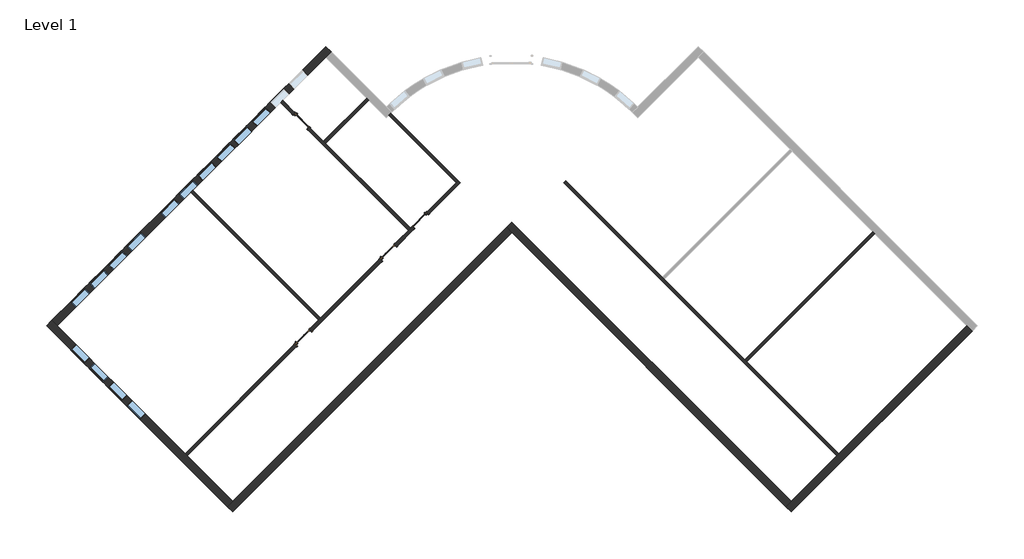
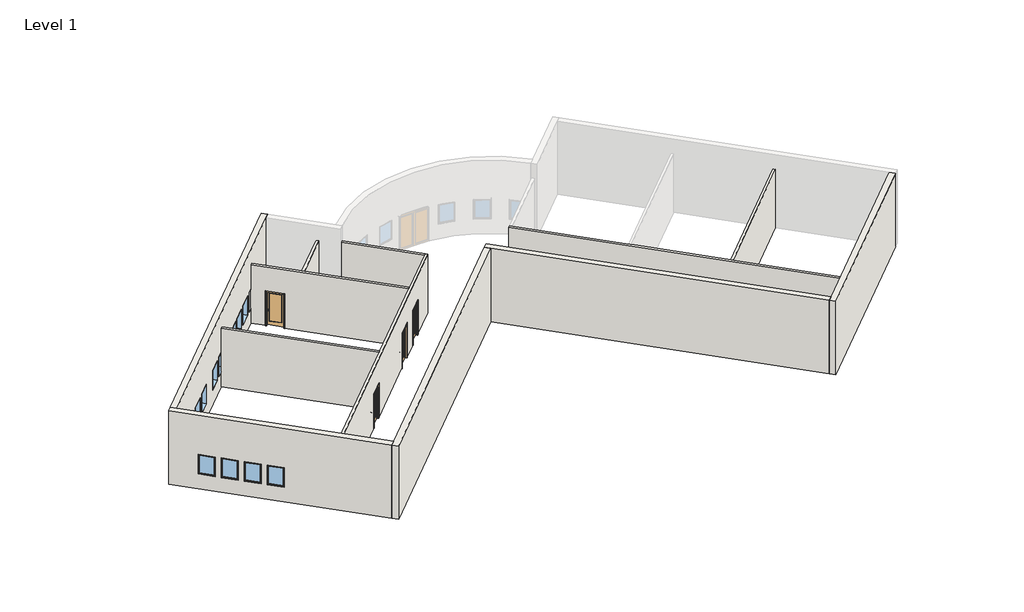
# One storey, part 1 of 2: 14 windows, 12 walls, 4 doors.
"""IFC4 building model written with IfcOpenShell, lengths in millimetres."""

from ifc_helpers import new_model, si_unit, point, frame_2d, origin, origin_with_axes, place, context, project, spatial, polyline, circle_curve, trimmed, segment, composite_curve, outline, extrude, faceted_brep, transform, mapped, element, save
from components import m_door_interior_single_1_panel_wood_900_x_2100mm_5dfd14ed, m_door_interior_single_1_panel_wood_900_x_2100mm_26619124, m_door_interior_single_full_glass_wood_900_x_2100mm_91e60ec7, m_fixed_0915_x_1220mm_bde29121, m_fixed_0915_x_1220mm_2a2509e7

model = new_model("IFC4")

# Units and contexts
model_context = context("Model", 3, world=origin())
ifc_project = project(units=[si_unit("LENGTHUNIT", "METRE", prefix="MILLI")], contexts=[model_context])

# Site, building, storey
site = spatial("IfcSite", under=ifc_project)
building = spatial("IfcBuilding", under=site)
storey = spatial("IfcBuildingStorey", under=building, Name="Level 1", Elevation=0.0)

# Doors
placement = place(None, origin())
m_door_interior_single_1_panel_wood_900_x_2100mm_shape = m_door_interior_single_1_panel_wood_900_x_2100mm_5dfd14ed(model_context)
element("IfcDoor", 1, ObjectType="M_Door-Interior-Single-1_Panel-Wood : 900 x 2100mm", at=placement, inside=storey, context=model_context, shape_type="MappedRepresentation", body=[
    mapped(m_door_interior_single_1_panel_wood_900_x_2100mm_shape, transform((-5845.495051, 2560.390774, 0.0), x_axis=(-0.7071067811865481, -0.7071067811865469, 0.0), y_axis=(0.7071067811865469, -0.7071067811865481, 0.0), z_axis=(0.0, 0.0, 1.0))),
])
m_door_interior_single_1_panel_wood_900_x_2100mm_2_shape = m_door_interior_single_1_panel_wood_900_x_2100mm_26619124(model_context)
element("IfcDoor", 2, ObjectType="M_Door-Interior-Single-1_Panel-Wood : 900 x 2100mm", at=placement, inside=storey, context=model_context, shape_type="MappedRepresentation", body=[
    mapped(m_door_interior_single_1_panel_wood_900_x_2100mm_2_shape, transform((-11360.5390355, 7166.1307933, 0.0), x_axis=(0.7071067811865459, -0.7071067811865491, 0.0), y_axis=(0.7071067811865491, 0.7071067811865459, 0.0), z_axis=(0.0, 0.0, 1.0))),
])
m_door_interior_single_full_glass_wood_900_x_2100mm_shape = m_door_interior_single_full_glass_wood_900_x_2100mm_91e60ec7(model_context)
element("IfcDoor", 3, ObjectType="M_Door-Interior-Single-Full Glass-Wood : 900 x 2100mm", at=placement, inside=storey, context=model_context, shape_type="MappedRepresentation", body=[
    mapped(m_door_interior_single_full_glass_wood_900_x_2100mm_shape, transform((-11272.2921092, -2866.4062842, 0.0), x_axis=(0.7071067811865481, 0.7071067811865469, 0.0), y_axis=(-0.7071067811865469, 0.7071067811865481, 0.0), z_axis=(0.0, 0.0, 1.0))),
])
element("IfcDoor", 4, ObjectType="M_Door-Interior-Single-Full Glass-Wood : 900 x 2100mm", at=placement, inside=storey, context=model_context, shape_type="MappedRepresentation", body=[
    mapped(m_door_interior_single_full_glass_wood_900_x_2100mm_shape, transform((-7333.813404, 1072.072421, 0.0), x_axis=(0.7071067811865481, 0.7071067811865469, 0.0), y_axis=(-0.7071067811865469, 0.7071067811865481, 0.0), z_axis=(0.0, 0.0, 1.0))),
])

# Walls
element("IfcWall", 5, ObjectType="Exterior - Brick on Mtl. Stud", at=placement, inside=storey, context=model_context, shape_type="Brep", body=[
    faceted_brep([(19456.3942478, -2315.870622, 0.0), (13534.5517321, -8237.7131378, 0.0), (13436.6174429, -8335.647427, 0.0), (11330.3231184, -10441.9417514, 0.0), (11082.835745, -10689.4291248, 0.0), (11082.835745, -10689.4291248, 4572.0), (11330.3231184, -10441.9417514, 4572.0), (19456.3942478, -2315.870622, 4572.0), (19703.8816212, -2563.3579955, 0.0), (19703.8816212, -2563.3579955, 4572.0), (11330.3231184, -10936.9164983, 4572.0), (11330.3231184, -10936.9164983, 0.0)], [[[0, 1, 2, 3, 4, 5, 6, 7]], [[8, 9, 10, 11]], [[4, 3, 2, 1, 0, 8, 11]], [[7, 6, 5, 10, 9]], [[0, 7, 9, 8]], [[5, 4, 11, 10]]]),
])
element("IfcWall", 6, ObjectType="Exterior - Brick on Mtl. Stud", at=placement, inside=storey, context=model_context, shape_type="Brep", body=[
    faceted_brep([(11330.3231184, -10441.9417514, 0.0), (-1601.2456959, 2489.6270629, 0.0), (-1601.2456959, 2489.6270629, 4572.0), (11330.3231184, -10441.9417514, 4572.0), (11082.835745, -10689.4291248, 0.0), (11082.835745, -10689.4291248, 4572.0), (-1601.2456959, 1994.6523161, 4572.0), (-1848.7330693, 2242.1396895, 4572.0), (-1848.7330693, 2242.1396895, 0.0), (-1601.2456959, 1994.6523161, 0.0)], [[[0, 1, 2, 3]], [[4, 5, 6, 7, 8, 9]], [[1, 0, 4, 9, 8]], [[3, 2, 7, 6, 5]], [[0, 3, 5, 4]], [[2, 1, 8, 7]]]),
])
element("IfcWall", 7, ObjectType="Exterior - Brick on Mtl. Stud", at=placement, inside=storey, context=model_context, shape_type="Brep", body=[
    faceted_brep([(-1848.7330693, 2242.1396895, 0.0), (-14532.8145102, -10441.9417514, 0.0), (-14780.3018837, -10689.4291248, 0.0), (-14780.3018837, -10689.4291248, 4572.0), (-14532.8145102, -10441.9417514, 4572.0), (-1848.7330693, 2242.1396895, 4572.0), (-1601.2456959, 1994.6523161, 0.0), (-1601.2456959, 1994.6523161, 4572.0), (-14532.8145102, -10936.9164983, 4572.0), (-14532.8145102, -10936.9164983, 0.0)], [[[0, 1, 2, 3, 4, 5]], [[6, 7, 8, 9]], [[2, 1, 0, 6, 9]], [[5, 4, 3, 8, 7]], [[0, 5, 7, 6]], [[3, 2, 9, 8]]]),
])
element("IfcWall", 8, ObjectType="Exterior - Brick on Mtl. Stud", at=placement, inside=storey, context=model_context, shape_type="Brep", body=[
    faceted_brep([(-14532.8145102, -10441.9417514, 0.0), (-16639.1088347, -8335.647427, 0.0), (-16737.0431239, -8237.7131378, 0.0), (-22658.8856396, -2315.870622, 0.0), (-22906.3730131, -2068.3832486, 0.0), (-22906.3730131, -2068.3832486, 4572.0), (-22658.8856396, -2315.870622, 4572.0), (-14532.8145102, -10441.9417514, 4572.0), (-19208.9116542, -5765.8446074, 915.0), (-18561.9089495, -6412.8473122, 915.0), (-18561.9089495, -6412.8473122, 2135.0), (-19208.9116542, -5765.8446074, 2135.0), (-20071.5819273, -4903.1743344, 915.0), (-19424.5792225, -5550.1770392, 915.0), (-19424.5792225, -5550.1770392, 2135.0), (-20071.5819273, -4903.1743344, 2135.0), (-20934.2522003, -4040.5040614, 915.0), (-20287.2494955, -4687.5067661, 915.0), (-20287.2494955, -4687.5067661, 2135.0), (-20934.2522003, -4040.5040614, 2135.0), (-21796.9224734, -3177.8337883, 915.0), (-21149.9197686, -3824.8364931, 915.0), (-21149.9197686, -3824.8364931, 2135.0), (-21796.9224734, -3177.8337883, 2135.0), (-14780.3018837, -10689.4291248, 0.0), (-14780.3018837, -10689.4291248, 4572.0), (-23153.8603865, -2315.870622, 4572.0), (-23153.8603865, -2315.870622, 0.0), (-19456.3990277, -6013.3319809, 915.0), (-19456.3990277, -6013.3319809, 2135.0), (-18809.3963229, -6660.3346856, 2135.0), (-18809.3963229, -6660.3346856, 915.0), (-20319.0693007, -5150.6617078, 915.0), (-20319.0693007, -5150.6617078, 2135.0), (-19672.0665959, -5797.6644126, 2135.0), (-19672.0665959, -5797.6644126, 915.0), (-21181.7395737, -4287.9914348, 915.0), (-21181.7395737, -4287.9914348, 2135.0), (-20534.736869, -4934.9941396, 2135.0), (-20534.736869, -4934.9941396, 915.0), (-22044.4098468, -3425.3211617, 915.0), (-22044.4098468, -3425.3211617, 2135.0), (-21397.407142, -4072.3238665, 2135.0), (-21397.407142, -4072.3238665, 915.0)], [[[0, 1, 2, 3, 4, 5, 6, 7], [8, 9, 10, 11], [12, 13, 14, 15], [16, 17, 18, 19], [20, 21, 22, 23]], [[24, 25, 26, 27], [28, 29, 30, 31], [32, 33, 34, 35], [36, 37, 38, 39], [40, 41, 42, 43]], [[4, 3, 2, 1, 0, 24, 27]], [[7, 6, 5, 26, 25]], [[0, 7, 25, 24]], [[5, 4, 27, 26]], [[29, 28, 8, 11]], [[30, 29, 11, 10]], [[31, 30, 10, 9]], [[28, 31, 9, 8]], [[33, 32, 12, 15]], [[34, 33, 15, 14]], [[35, 34, 14, 13]], [[32, 35, 13, 12]], [[37, 36, 16, 19]], [[38, 37, 19, 18]], [[39, 38, 18, 17]], [[36, 39, 17, 16]], [[41, 40, 20, 23]], [[42, 41, 23, 22]], [[43, 42, 22, 21]], [[40, 43, 21, 20]]]),
])
element("IfcWall", 9, ObjectType="Exterior - Brick on Mtl. Stud", at=placement, inside=storey, context=model_context, shape_type="Brep", body=[
    faceted_brep([(-22658.8856396, -2315.870622, 0.0), (-16473.6458479, 3869.3691697, 0.0), (-16375.7115587, 3967.3034589, 0.0), (-12319.9238385, 8023.0911791, 0.0), (-12221.9895493, 8121.0254683, 0.0), (-10222.2915721, 10120.7234455, 0.0), (-9974.8041987, 10368.2108189, 0.0), (-9974.8041987, 10368.2108189, 4572.0), (-10222.2915721, 10120.7234455, 4572.0), (-22658.8856396, -2315.870622, 4572.0), (-21796.9224734, -1453.9074558, 915.0), (-21796.9224734, -1453.9074558, 2135.0), (-21149.9197686, -806.904751, 2135.0), (-21149.9197686, -806.904751, 915.0), (-20934.2522003, -591.2371827, 915.0), (-20934.2522003, -591.2371827, 2135.0), (-20287.2494955, 55.7655221, 2135.0), (-20287.2494955, 55.7655221, 915.0), (-19208.9116542, 1134.1033634, 915.0), (-19208.9116542, 1134.1033634, 2135.0), (-18561.9089495, 1781.1060682, 2135.0), (-18561.9089495, 1781.1060682, 915.0), (-20071.5819273, 271.4330903, 915.0), (-20071.5819273, 271.4330903, 2135.0), (-19424.5792225, 918.4357951, 2135.0), (-19424.5792225, 918.4357951, 915.0), (-13640.4457524, 6702.5692652, 915.0), (-14287.4484572, 6055.5665604, 915.0), (-14287.4484572, 6055.5665604, 2135.0), (-13640.4457524, 6702.5692652, 2135.0), (-12777.7754793, 7565.2395383, 915.0), (-13424.7781841, 6918.2368335, 915.0), (-13424.7781841, 6918.2368335, 2135.0), (-12777.7754793, 7565.2395383, 2135.0), (-11915.1052063, 8427.9098113, 915.0), (-12562.1079111, 7780.9071065, 915.0), (-12562.1079111, 7780.9071065, 2135.0), (-11915.1052063, 8427.9098113, 2135.0), (-11052.4349332, 9290.5800844, 915.0), (-11699.437638, 8643.5773796, 915.0), (-11699.437638, 8643.5773796, 2135.0), (-11052.4349332, 9290.5800844, 2135.0), (-15071.8066542, 5271.2083634, 915.0), (-15071.8066542, 5271.2083634, 2135.0), (-14424.8039494, 5918.2110682, 2135.0), (-14424.8039494, 5918.2110682, 915.0), (-15934.4769273, 4408.5380904, 915.0), (-15934.4769273, 4408.5380904, 2135.0), (-15287.4742225, 5055.5407951, 2135.0), (-15287.4742225, 5055.5407951, 915.0), (-16797.1472003, 3545.8678173, 915.0), (-16797.1472003, 3545.8678173, 2135.0), (-16150.1444955, 4192.8705221, 2135.0), (-16150.1444955, 4192.8705221, 915.0), (-17659.8174734, 2683.1975443, 915.0), (-17659.8174734, 2683.1975443, 2135.0), (-17012.8147686, 3330.200249, 2135.0), (-17012.8147686, 3330.200249, 915.0), (-22906.3730131, -2068.3832486, 0.0), (-22906.3730131, -2068.3832486, 4572.0), (-10222.2915721, 10615.6981923, 4572.0), (-10222.2915721, 10615.6981923, 0.0), (-22044.4098468, -1206.4200824, 915.0), (-21397.407142, -559.4173776, 915.0), (-21397.407142, -559.4173776, 2135.0), (-22044.4098468, -1206.4200824, 2135.0), (-21181.7395737, -343.7498093, 915.0), (-20534.736869, 303.2528955, 915.0), (-20534.736869, 303.2528955, 2135.0), (-21181.7395737, -343.7498093, 2135.0), (-19456.3990277, 1381.5907368, 915.0), (-18809.3963229, 2028.5934416, 915.0), (-18809.3963229, 2028.5934416, 2135.0), (-19456.3990277, 1381.5907368, 2135.0), (-20319.0693007, 518.9204637, 915.0), (-19672.0665959, 1165.9231685, 915.0), (-19672.0665959, 1165.9231685, 2135.0), (-20319.0693007, 518.9204637, 2135.0), (-13887.9331258, 6950.0566386, 915.0), (-13887.9331258, 6950.0566386, 2135.0), (-14534.9358306, 6303.0539338, 2135.0), (-14534.9358306, 6303.0539338, 915.0), (-13025.2628528, 7812.7269117, 915.0), (-13025.2628528, 7812.7269117, 2135.0), (-13672.2655575, 7165.7242069, 2135.0), (-13672.2655575, 7165.7242069, 915.0), (-12162.5925797, 8675.3971847, 915.0), (-12162.5925797, 8675.3971847, 2135.0), (-12809.5952845, 8028.3944799, 2135.0), (-12809.5952845, 8028.3944799, 915.0), (-11299.9223067, 9538.0674578, 915.0), (-11299.9223067, 9538.0674578, 2135.0), (-11946.9250114, 8891.064753, 2135.0), (-11946.9250114, 8891.064753, 915.0), (-15319.2940276, 5518.6957368, 915.0), (-14672.2913228, 6165.6984416, 915.0), (-14672.2913228, 6165.6984416, 2135.0), (-15319.2940276, 5518.6957368, 2135.0), (-16181.9643007, 4656.0254638, 915.0), (-15534.9615959, 5303.0281686, 915.0), (-15534.9615959, 5303.0281686, 2135.0), (-16181.9643007, 4656.0254638, 2135.0), (-17044.6345737, 3793.3551907, 915.0), (-16397.6318689, 4440.3578955, 915.0), (-16397.6318689, 4440.3578955, 2135.0), (-17044.6345737, 3793.3551907, 2135.0), (-17907.3048468, 2930.6849177, 915.0), (-17260.302142, 3577.6876225, 915.0), (-17260.302142, 3577.6876225, 2135.0), (-17907.3048468, 2930.6849177, 2135.0)], [[[0, 1, 2, 3, 4, 5, 6, 7, 8, 9], [10, 11, 12, 13], [14, 15, 16, 17], [18, 19, 20, 21], [22, 23, 24, 25], [26, 27, 28, 29], [30, 31, 32, 33], [34, 35, 36, 37], [38, 39, 40, 41], [42, 43, 44, 45], [46, 47, 48, 49], [50, 51, 52, 53], [54, 55, 56, 57]], [[58, 59, 60, 61], [62, 63, 64, 65], [66, 67, 68, 69], [70, 71, 72, 73], [74, 75, 76, 77], [78, 79, 80, 81], [82, 83, 84, 85], [86, 87, 88, 89], [90, 91, 92, 93], [94, 95, 96, 97], [98, 99, 100, 101], [102, 103, 104, 105], [106, 107, 108, 109]], [[6, 5, 4, 3, 2, 1, 0, 58, 61]], [[9, 8, 7, 60, 59]], [[0, 9, 59, 58]], [[7, 6, 61, 60]], [[11, 10, 62, 65]], [[12, 11, 65, 64]], [[13, 12, 64, 63]], [[10, 13, 63, 62]], [[15, 14, 66, 69]], [[16, 15, 69, 68]], [[17, 16, 68, 67]], [[14, 17, 67, 66]], [[19, 18, 70, 73]], [[20, 19, 73, 72]], [[21, 20, 72, 71]], [[18, 21, 71, 70]], [[23, 22, 74, 77]], [[24, 23, 77, 76]], [[25, 24, 76, 75]], [[22, 25, 75, 74]], [[79, 78, 26, 29]], [[80, 79, 29, 28]], [[81, 80, 28, 27]], [[78, 81, 27, 26]], [[83, 82, 30, 33]], [[84, 83, 33, 32]], [[85, 84, 32, 31]], [[82, 85, 31, 30]], [[87, 86, 34, 37]], [[88, 87, 37, 36]], [[89, 88, 36, 35]], [[86, 89, 35, 34]], [[91, 90, 38, 41]], [[92, 91, 41, 40]], [[93, 92, 40, 39]], [[90, 93, 39, 38]], [[43, 42, 94, 97]], [[44, 43, 97, 96]], [[45, 44, 96, 95]], [[42, 45, 95, 94]], [[47, 46, 98, 101]], [[48, 47, 101, 100]], [[49, 48, 100, 99]], [[46, 49, 99, 98]], [[51, 50, 102, 105]], [[52, 51, 105, 104]], [[53, 52, 104, 103]], [[50, 53, 103, 102]], [[55, 54, 106, 109]], [[56, 55, 109, 108]], [[57, 56, 108, 107]], [[54, 57, 107, 106]]]),
])
element("IfcWall", 10, ObjectType="Interior - 138mm Partition (1-hr)", at=placement, inside=storey, context=model_context, shape_type="Brep", body=[
    faceted_brep([(-3997.9841307, 4305.477277, 3658.0), (-16639.1088347, -8335.647427, 3658.0), (-16639.1088347, -8335.647427, 0.0), (-11556.9556216, -3253.4942139, 0.0), (-11556.9556216, -3253.4942139, 2125.0), (-10885.2041795, -2581.7427718, 2125.0), (-10885.2041795, -2581.7427718, 0.0), (-7618.4769164, 684.9844913, 0.0), (-7618.4769164, 684.9844913, 2125.0), (-6946.7254743, 1356.7359334, 2125.0), (-6946.7254743, 1356.7359334, 0.0), (-6130.1585634, 2173.3028443, 0.0), (-6130.1585634, 2173.3028443, 2125.0), (-5458.4071213, 2845.0542865, 2125.0), (-5458.4071213, 2845.0542865, 0.0), (-3997.9841307, 4305.477277, 0.0), (-16737.0431239, -8237.7131378, 3658.0), (-10551.8033322, -2052.473346, 3658.0), (-10453.869043, -1954.5390569, 3658.0), (-6398.0813228, 2101.2486633, 3658.0), (-6300.1470336, 2199.1829525, 3658.0), (-4193.8527091, 4305.477277, 3658.0), (-4095.9184199, 4403.4115662, 3658.0), (-4095.9184199, 4403.4115662, 0.0), (-4193.8527091, 4305.477277, 0.0), (-5556.3414105, 2942.9885757, 0.0), (-5556.3414105, 2942.9885757, 2125.0), (-6228.0928526, 2271.2371335, 2125.0), (-6228.0928526, 2271.2371335, 0.0), (-6300.1470336, 2199.1829525, 0.0), (-6398.0813228, 2101.2486633, 0.0), (-7044.6597635, 1454.6702226, 0.0), (-7044.6597635, 1454.6702226, 2125.0), (-7716.4112056, 782.9187805, 2125.0), (-7716.4112056, 782.9187805, 0.0), (-10453.869043, -1954.5390569, 0.0), (-10551.8033322, -2052.473346, 0.0), (-10983.1384687, -2483.8084826, 0.0), (-10983.1384687, -2483.8084826, 2125.0), (-11654.8899108, -3155.5599247, 2125.0), (-11654.8899108, -3155.5599247, 0.0), (-16737.0431239, -8237.7131378, 0.0)], [[[0, 1, 2, 3, 4, 5, 6, 7, 8, 9, 10, 11, 12, 13, 14, 15]], [[16, 17, 18, 19, 20, 21, 22, 23, 24, 25, 26, 27, 28, 29, 30, 31, 32, 33, 34, 35, 36, 37, 38, 39, 40, 41]], [[2, 41, 40, 3]], [[23, 15, 14, 25, 24]], [[6, 37, 36, 35, 34, 7]], [[10, 31, 30, 29, 28, 11]], [[1, 0, 22, 21, 20, 19, 18, 17, 16]], [[2, 1, 16, 41]], [[0, 15, 23, 22]], [[5, 38, 37, 6]], [[38, 5, 4, 39]], [[39, 4, 3, 40]], [[9, 32, 31, 10]], [[32, 9, 8, 33]], [[33, 8, 7, 34]], [[27, 12, 11, 28]], [[12, 27, 26, 13]], [[13, 26, 25, 14]]]),
])
element("IfcWall", 11, ObjectType="Interior - 138mm Partition (1-hr)", at=placement, inside=storey, context=model_context, shape_type="SweptSolid", body=[
    extrude(outline(composite_curve([segment(polyline([(-7216.038281, 7523.5314273), (-4095.9184199, 4403.4115662), (-4193.8527091, 4305.477277), (-7312.3566207, 7423.9811885)]), True, "CONTINUOUS"), segment(trimmed(circle_curve(frame_2d((-1601.2456959, 1994.6523161)), 7880.0), [point((-7312.3566207, 7423.9811885))], [point((-7216.038281, 7523.5314273))], False, "CARTESIAN"), True, "CONTINUOUS")], self_intersect=False)), origin_with_axes(), (0.0, 0.0, 1.0), 3658.0),
])
element("IfcWall", 12, ObjectType="Interior - 138mm Partition (1-hr)", at=placement, inside=storey, context=model_context, shape_type="Brep", body=[
    faceted_brep([(-12221.9895493, 8121.0254683, 3658.0), (-10331.3627931, 6230.3987121, 3658.0), (-10233.4285039, 6132.4644229, 3658.0), (-6300.1470336, 2199.1829525, 3658.0), (-6300.1470336, 2199.1829525, 0.0), (-10233.4285039, 6132.4644229, 0.0), (-10331.3627931, 6230.3987121, 0.0), (-10977.9412339, 6876.9771528, 0.0), (-10977.9412339, 6876.9771528, 2125.0), (-11649.692676, 7548.7285949, 2125.0), (-11649.692676, 7548.7285949, 0.0), (-12221.9895493, 8121.0254683, 0.0), (-6398.0813228, 2101.2486633, 3658.0), (-12319.9238385, 8023.0911791, 3658.0), (-12319.9238385, 8023.0911791, 0.0), (-11747.6269652, 7450.7943057, 0.0), (-11747.6269652, 7450.7943057, 2125.0), (-11075.875523, 6779.0428636, 2125.0), (-11075.875523, 6779.0428636, 0.0), (-6398.0813228, 2101.2486633, 0.0)], [[[0, 1, 2, 3, 4, 5, 6, 7, 8, 9, 10, 11]], [[12, 13, 14, 15, 16, 17, 18, 19]], [[4, 19, 18, 7, 6, 5]], [[14, 11, 10, 15]], [[3, 2, 1, 0, 13, 12]], [[0, 11, 14, 13]], [[4, 3, 12, 19]], [[17, 8, 7, 18]], [[8, 17, 16, 9]], [[9, 16, 15, 10]]]),
])
element("IfcWall", 13, ObjectType="Interior - 138mm Partition (1-hr)", at=placement, inside=storey, context=model_context, shape_type="SweptSolid", body=[
    extrude(outline(polyline([(-8233.7305267, 8132.1624001), (-10233.4285039, 6132.4644229), (-10331.3627931, 6230.3987121), (-8331.6648159, 8230.0966893), (-8233.7305267, 8132.1624001)])), origin_with_axes(), (0.0, 0.0, 1.0), 3658.0),
])
element("IfcWall", 14, ObjectType="Interior - 138mm Partition (1-hr)", at=placement, inside=storey, context=model_context, shape_type="SweptSolid", body=[
    extrude(outline(polyline([(-16375.7115587, 3967.3034589), (-10453.869043, -1954.5390569), (-10551.8033322, -2052.473346), (-16473.6458479, 3869.3691697), (-16375.7115587, 3967.3034589)])), origin_with_axes(), (0.0, 0.0, 1.0), 3658.0),
])
element("IfcWall", 15, ObjectType="Interior - 138mm Partition (1-hr)", at=placement, inside=storey, context=model_context, shape_type="Brep", body=[
    faceted_brep([(13534.5517321, -8237.7131378, 0.0), (9272.9959386, -3976.1573443, 0.0), (9175.0616494, -3878.2230551, 0.0), (5457.4477473, -160.609153, 0.0), (5359.5134581, -62.6748638, 0.0), (991.3613173, 4305.477277, 0.0), (893.4270281, 4403.4115662, 0.0), (893.4270281, 4403.4115662, 3658.0), (991.3613173, 4305.477277, 3658.0), (5359.5134581, -62.6748638, 3658.0), (5457.4477473, -160.609153, 3658.0), (9175.0616494, -3878.2230551, 3658.0), (9272.9959386, -3976.1573443, 3658.0), (13534.5517321, -8237.7131378, 3658.0), (13436.6174429, -8335.647427, 0.0), (13436.6174429, -8335.647427, 3658.0), (795.4927389, 4305.477277, 3658.0), (795.4927389, 4305.477277, 0.0)], [[[0, 1, 2, 3, 4, 5, 6, 7, 8, 9, 10, 11, 12, 13]], [[14, 15, 16, 17]], [[6, 5, 4, 3, 2, 1, 0, 14, 17]], [[13, 12, 11, 10, 9, 8, 7, 16, 15]], [[0, 13, 15, 14]], [[7, 6, 17, 16]]]),
])
element("IfcWall", 16, ObjectType="Interior - 138mm Partition (1-hr)", at=placement, inside=storey, context=model_context, shape_type="SweptSolid", body=[
    extrude(outline(polyline([(15194.8384543, 1945.6851715), (9272.9959386, -3976.1573443), (9175.0616494, -3878.2230551), (15096.9041651, 2043.6194607), (15194.8384543, 1945.6851715)])), origin_with_axes(), (0.0, 0.0, 1.0), 3658.0),
])

# Windows
m_fixed_0915_x_1220mm_shape = m_fixed_0915_x_1220mm_bde29121(model_context)
element("IfcWindow", 17, ObjectType="M_Fixed : 0915 x 1220mm", at=placement, inside=storey, context=model_context, shape_type="MappedRepresentation", body=[
    mapped(m_fixed_0915_x_1220mm_shape, transform((-21587.9724195, -1015.8548048, 0.0), x_axis=(0.7071067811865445, 0.7071067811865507, 0.0), y_axis=(-0.7071067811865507, 0.7071067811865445, 0.0), z_axis=(0.0, 0.0, 1.0))),
])
element("IfcWindow", 18, ObjectType="M_Fixed : 0915 x 1220mm", at=placement, inside=storey, context=model_context, shape_type="MappedRepresentation", body=[
    mapped(m_fixed_0915_x_1220mm_shape, transform((-20725.3021465, -153.1845318, 0.0), x_axis=(0.7071067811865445, 0.7071067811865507, 0.0), y_axis=(-0.7071067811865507, 0.7071067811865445, 0.0), z_axis=(0.0, 0.0, 1.0))),
])
element("IfcWindow", 19, ObjectType="M_Fixed : 0915 x 1220mm", at=placement, inside=storey, context=model_context, shape_type="MappedRepresentation", body=[
    mapped(m_fixed_0915_x_1220mm_shape, transform((-19862.6318734, 709.4857413, 0.0), x_axis=(0.7071067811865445, 0.7071067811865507, 0.0), y_axis=(-0.7071067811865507, 0.7071067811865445, 0.0), z_axis=(0.0, 0.0, 1.0))),
])
element("IfcWindow", 20, ObjectType="M_Fixed : 0915 x 1220mm", at=placement, inside=storey, context=model_context, shape_type="MappedRepresentation", body=[
    mapped(m_fixed_0915_x_1220mm_shape, transform((-18999.9616004, 1572.1560143, 0.0), x_axis=(0.7071067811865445, 0.7071067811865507, 0.0), y_axis=(-0.7071067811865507, 0.7071067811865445, 0.0), z_axis=(0.0, 0.0, 1.0))),
])
element("IfcWindow", 21, ObjectType="M_Fixed : 0915 x 1220mm", at=placement, inside=storey, context=model_context, shape_type="MappedRepresentation", body=[
    mapped(m_fixed_0915_x_1220mm_shape, transform((-17450.8674195, 3121.2501952, 0.0), x_axis=(0.7071067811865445, 0.7071067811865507, 0.0), y_axis=(-0.7071067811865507, 0.7071067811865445, 0.0), z_axis=(0.0, 0.0, 1.0))),
])
element("IfcWindow", 22, ObjectType="M_Fixed : 0915 x 1220mm", at=placement, inside=storey, context=model_context, shape_type="MappedRepresentation", body=[
    mapped(m_fixed_0915_x_1220mm_shape, transform((-16588.1971465, 3983.9204682, 0.0), x_axis=(0.7071067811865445, 0.7071067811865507, 0.0), y_axis=(-0.7071067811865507, 0.7071067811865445, 0.0), z_axis=(0.0, 0.0, 1.0))),
])
element("IfcWindow", 23, ObjectType="M_Fixed : 0915 x 1220mm", at=placement, inside=storey, context=model_context, shape_type="MappedRepresentation", body=[
    mapped(m_fixed_0915_x_1220mm_shape, transform((-15725.5268734, 4846.5907413, 0.0), x_axis=(0.7071067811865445, 0.7071067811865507, 0.0), y_axis=(-0.7071067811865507, 0.7071067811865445, 0.0), z_axis=(0.0, 0.0, 1.0))),
])
element("IfcWindow", 24, ObjectType="M_Fixed : 0915 x 1220mm", at=placement, inside=storey, context=model_context, shape_type="MappedRepresentation", body=[
    mapped(m_fixed_0915_x_1220mm_shape, transform((-14862.8566004, 5709.2610143, 0.0), x_axis=(0.7071067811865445, 0.7071067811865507, 0.0), y_axis=(-0.7071067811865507, 0.7071067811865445, 0.0), z_axis=(0.0, 0.0, 1.0))),
])
m_fixed_0915_x_1220mm_2_shape = m_fixed_0915_x_1220mm_2a2509e7(model_context)
element("IfcWindow", 25, ObjectType="M_Fixed : 0915 x 1220mm", at=placement, inside=storey, context=model_context, shape_type="MappedRepresentation", body=[
    mapped(m_fixed_0915_x_1220mm_2_shape, transform((-13215.8281303, 7356.2894844, 0.0), x_axis=(-0.7071067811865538, -0.7071067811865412, 0.0), y_axis=(0.7071067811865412, -0.7071067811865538, 0.0), z_axis=(0.0, 0.0, 1.0))),
])
element("IfcWindow", 26, ObjectType="M_Fixed : 0915 x 1220mm", at=placement, inside=storey, context=model_context, shape_type="MappedRepresentation", body=[
    mapped(m_fixed_0915_x_1220mm_2_shape, transform((-14078.4984033, 6493.6192114, 0.0), x_axis=(-0.7071067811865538, -0.7071067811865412, 0.0), y_axis=(0.7071067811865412, -0.7071067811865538, 0.0), z_axis=(0.0, 0.0, 1.0))),
])
element("IfcWindow", 27, ObjectType="M_Fixed : 0915 x 1220mm", at=placement, inside=storey, context=model_context, shape_type="MappedRepresentation", body=[
    mapped(m_fixed_0915_x_1220mm_2_shape, transform((-21587.9724195, -3615.8864392, 0.0), x_axis=(0.7071067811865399, -0.7071067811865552, 0.0), y_axis=(0.7071067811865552, 0.7071067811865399, 0.0), z_axis=(0.0, 0.0, 1.0))),
])
element("IfcWindow", 28, ObjectType="M_Fixed : 0915 x 1220mm", at=placement, inside=storey, context=model_context, shape_type="MappedRepresentation", body=[
    mapped(m_fixed_0915_x_1220mm_2_shape, transform((-20725.3021465, -4478.5567123, 0.0), x_axis=(0.7071067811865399, -0.7071067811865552, 0.0), y_axis=(0.7071067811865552, 0.7071067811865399, 0.0), z_axis=(0.0, 0.0, 1.0))),
])
element("IfcWindow", 29, ObjectType="M_Fixed : 0915 x 1220mm", at=placement, inside=storey, context=model_context, shape_type="MappedRepresentation", body=[
    mapped(m_fixed_0915_x_1220mm_2_shape, transform((-19862.6318734, -5341.2269853, 0.0), x_axis=(0.7071067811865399, -0.7071067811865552, 0.0), y_axis=(0.7071067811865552, 0.7071067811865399, 0.0), z_axis=(0.0, 0.0, 1.0))),
])
element("IfcWindow", 30, ObjectType="M_Fixed : 0915 x 1220mm", at=placement, inside=storey, context=model_context, shape_type="MappedRepresentation", body=[
    mapped(m_fixed_0915_x_1220mm_2_shape, transform((-18999.9616004, -6203.8972584, 0.0), x_axis=(0.7071067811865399, -0.7071067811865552, 0.0), y_axis=(0.7071067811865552, 0.7071067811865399, 0.0), z_axis=(0.0, 0.0, 1.0))),
])

save(model, "model.ifc")
